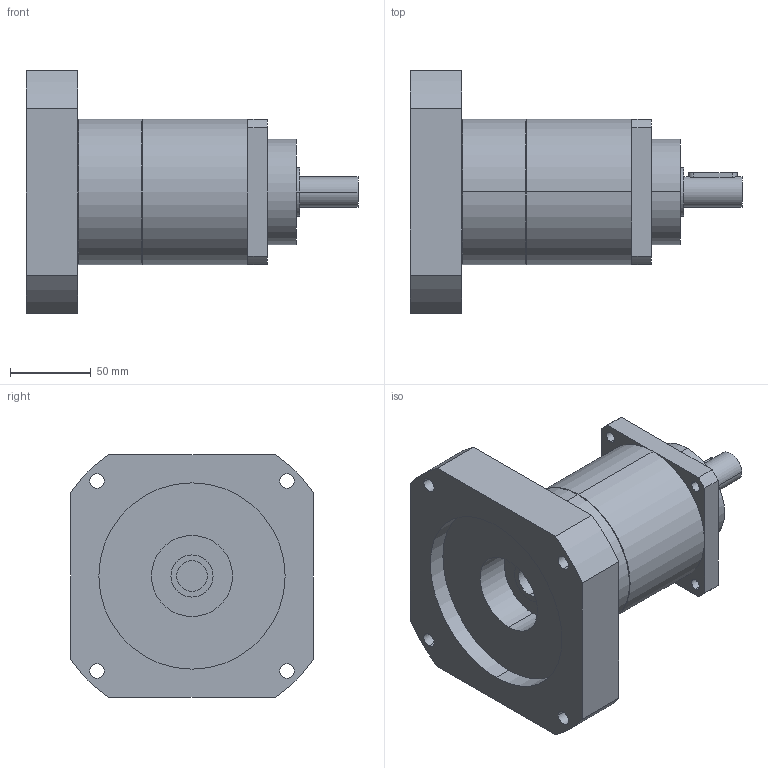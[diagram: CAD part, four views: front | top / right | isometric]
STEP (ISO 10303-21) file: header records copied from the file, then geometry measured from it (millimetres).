
FILE_DESCRIPTION(('CoCreate Modeling STEP Export'),'2;1');
FILE_NAME('GPT90_ig-9-12-16-20-25-28-35-40-50-70-100_19_B5T_19_P11.stp','2015-02-04T11:32:54',(''),(''),'CoCreate Modeling STEP processor for AP214 (Solid Model)','CoCreate Modeling 16.00C 25-Feb-2009 (C) Parametric Technology GmbH','');
FILE_SCHEMA(('AUTOMOTIVE_DESIGN { 1 0 10303 214 1 1 1 1 }'));
Length unit declared in the file: millimetre
Products named in the file (2): GPT90_ig-9-12-16-20-25-28-35-40-50-70-100_19_B5T_19_P11
Assembly tree (1 placements, depth 2):
  GPT90_ig-9-12-16-20-25-28-35-40-50-70-100_19_B5T_19_P11
    GPT90_ig-9-12-16-20-25-28-35-40-50-70-100_19_B5T_19_P11
Bounding box: 205 x 150 x 150 mm (x, y, z)
Volume: 1351097.8 mm3; surface area: 118127.7 mm2
Topology: 1 solids, 1 shells, 77 faces, 206 edges, 141 vertices
Faces by surface type: cylinder 46, plane 27, cone 4
Entity records: 2596 total; most frequent: CARTESIAN_POINT 742, ORIENTED_EDGE 412, DIRECTION 324, EDGE_CURVE 206, VERTEX_POINT 141, AXIS2_PLACEMENT_3D 120, EDGE_LOOP 103, VECTOR 84
